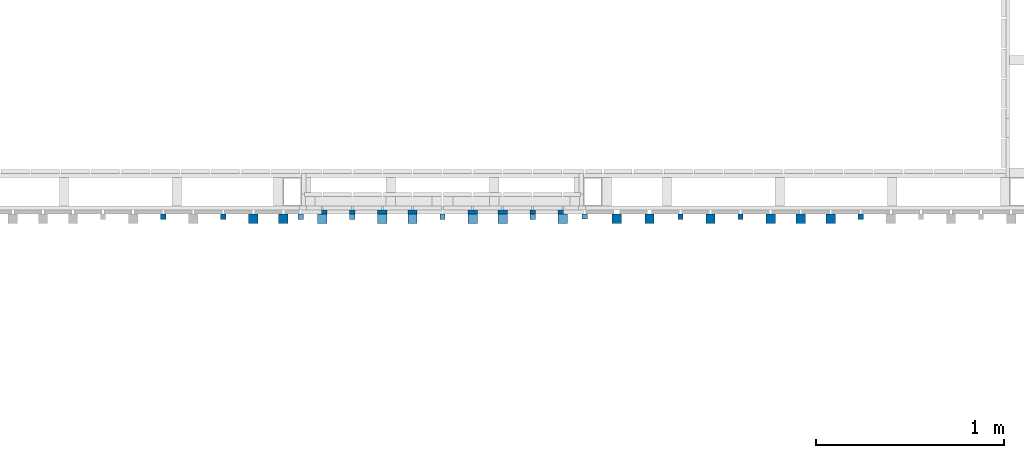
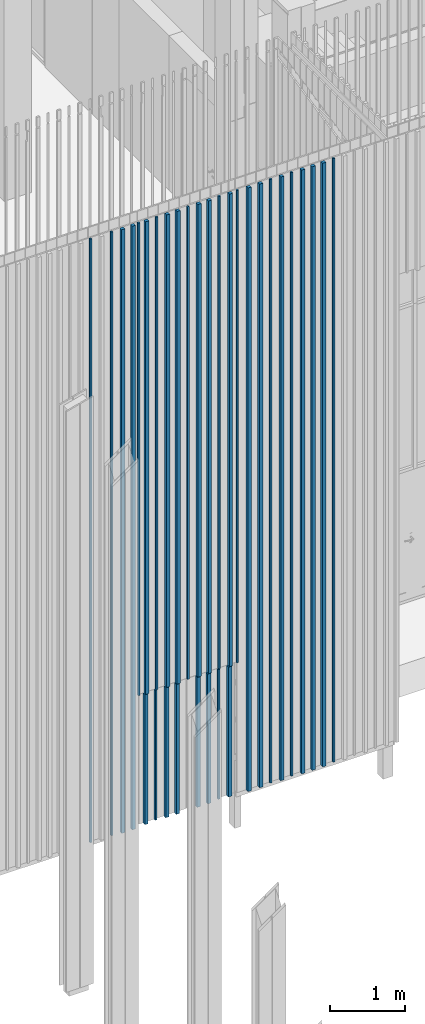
# One storey, part 8 of 390: 32 walls.
"""IFC2X3 building model written with IfcOpenShell, lengths in millimetres."""

from ifc_helpers import new_model, entity, si_unit, converted_unit, derived_unit, money_unit, direction, frame, origin_with_axes, origin_2d_with_axis, place, context, subcontext, project, spatial, rectangle, extrude, material, type_object, element, save


model = new_model("IFC2X3")

# Units and contexts
model_context = context("Model", 3, precision=1e-05, world=origin_with_axes(), true_north=direction((0.0, 1.0)))
body_context = subcontext(model_context, "Body", "Model", "MODEL_VIEW")
ifc_project = project(units=[si_unit("LENGTHUNIT", "METRE", prefix="MILLI"), si_unit("AREAUNIT", "SQUARE_METRE"), si_unit("VOLUMEUNIT", "CUBIC_METRE"), converted_unit("PLANEANGLEUNIT", "DEGREE", entity("IfcPlaneAngleMeasure", 0.0174532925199), si_unit("PLANEANGLEUNIT", "RADIAN"), dimensions=[0, 0, 0, 0, 0, 0, 0]), si_unit("SOLIDANGLEUNIT", "STERADIAN"), money_unit("EUR"), converted_unit("TIMEUNIT", "Year", entity("IfcTimeMeasure", 31556926.0), si_unit("TIMEUNIT", "SECOND"), dimensions=[0, 0, 1, 0, 0, 0, 0]), si_unit("MASSUNIT", "GRAM", prefix="KILO"), si_unit("THERMODYNAMICTEMPERATUREUNIT", "DEGREE_CELSIUS"), si_unit("LUMINOUSINTENSITYUNIT", "LUMEN"), si_unit("ENERGYUNIT", "JOULE", prefix="MEGA"), derived_unit("THERMALCONDUCTANCEUNIT", [(si_unit("POWERUNIT", "WATT"), 1), (si_unit("LENGTHUNIT", "METRE"), -1), (si_unit("THERMODYNAMICTEMPERATUREUNIT", "KELVIN"), -1)]), derived_unit("SPECIFICHEATCAPACITYUNIT", [(si_unit("ENERGYUNIT", "JOULE"), 1), (si_unit("MASSUNIT", "GRAM", prefix="KILO"), -1), (si_unit("THERMODYNAMICTEMPERATUREUNIT", "KELVIN"), -1)]), derived_unit("MASSDENSITYUNIT", [(si_unit("MASSUNIT", "GRAM", prefix="KILO"), 1), (si_unit("VOLUMEUNIT", "CUBIC_METRE"), -1)])], contexts=[model_context])

# Site, building, storey
site_placement = place(None, origin_with_axes())
site = spatial("IfcSite", under=ifc_project, at=site_placement, Name="Site", CompositionType="ELEMENT")
building_placement = place(site_placement, origin_with_axes())
building = spatial("IfcBuilding", under=site, at=building_placement, Name="Building", CompositionType="ELEMENT")
storey_placement = place(building_placement, origin_with_axes())
storey = spatial("IfcBuildingStorey", under=building, at=storey_placement, Name="1 korrus", CompositionType="ELEMENT", Elevation=0.0)

# Walls
ifc_material = material(Name="Site specified")
wall_type = type_object("IfcWallType", Name="Puitfassaadi ribistik", PredefinedType="NOTDEFINED")
for number, where, z_axis, x_axis, name in (
    (1, (126509.99996, 42455.0000666, 2220.00000001), (0.0, 0.0, 1.0), (-1.0, 0.0, 0.0), "Site specified"),
    (2, (125229.99996, 42455.0000666, 2220.00000001), (0.0, 0.0, 1.0), (-1.0, 0.0, 0.0), "Site specified"),
    (3, (126029.99996, 42455.0000666, 2220.00000001), (0.0, 0.0, 1.0), (-1.0, 0.0, 0.0), "Site specified"),
    (4, (126189.99996, 42455.0000666, 2220.00000001), (0.0, 0.0, 1.0), (-1.0, 0.0, 0.0), "Site specified"),
):
    element("IfcWall", number, at=place(storey_placement, frame(where, z_axis=z_axis, x_axis=x_axis)), inside=storey, type_object=wall_type, material=ifc_material, Name=name, context=body_context, shape_type="SweptSolid", body=[
        extrude(rectangle(XDim=50.0, YDim=50.0, at=origin_2d_with_axis()), origin_with_axes(), (0.0, 0.0, 1.0), 7644.99999999),
    ])
for number, where, z_axis, x_axis, name in (
    (5, (127136.999994, 42465.9999887, 100.000000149), (0.0, 0.0, 1.0), (-1.0, 0.0, 0.0), "Site specified"),
    (6, (128096.999994, 42465.9999962, 100.000000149), (0.0, 0.0, 1.0), (-1.0, 0.0, 0.0), "Site specified"),
):
    element("IfcWall", number, at=place(storey_placement, frame(where, z_axis=z_axis, x_axis=x_axis)), inside=storey, type_object=wall_type, material=ifc_material, Name=name, context=body_context, shape_type="SweptSolid", body=[
        extrude(rectangle(XDim=28.0, YDim=28.0, at=origin_2d_with_axis()), origin_with_axes(), (0.0, 0.0, 1.0), 9764.99999985),
    ])
for number, where, z_axis, x_axis, name in (
    (7, (125549.99996, 42455.0000666, 2220.00000001), (0.0, 0.0, 1.0), (-1.0, 0.0, 0.0), "Site specified"),
    (8, (125709.99996, 42455.0000666, 2220.00000001), (0.0, 0.0, 1.0), (-1.0, 0.0, 0.0), "Site specified"),
):
    element("IfcWall", number, at=place(storey_placement, frame(where, z_axis=z_axis, x_axis=x_axis)), inside=storey, type_object=wall_type, material=ifc_material, Name=name, context=body_context, shape_type="SweptSolid", body=[
        extrude(rectangle(XDim=50.0, YDim=50.0, at=origin_2d_with_axis()), origin_with_axes(), (0.0, 0.0, 1.0), 7644.99999999),
    ])
wall_1_placement = place(storey_placement, frame((127456.999994, 42465.9999962, 100.000000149), z_axis=(0.0, 0.0, 1.0), x_axis=(-1.0, 0.0, 0.0)))
element("IfcWall", 9, at=wall_1_placement, inside=storey, type_object=wall_type, material=ifc_material, Name="Site specified", context=body_context, shape_type="SweptSolid", body=[
    extrude(rectangle(XDim=28.0, YDim=28.0, at=origin_2d_with_axis()), origin_with_axes(), (0.0, 0.0, 1.0), 9764.99999985),
])
for number, where, z_axis, x_axis, name in (
    (10, (127936.999994, 42454.9999962, 100.000000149), (0.0, 0.0, 1.0), (-1.0, 0.0, 0.0), "Site specified"),
    (11, (125022.99996, 42455.0000667, 100.000000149), (0.0, 0.0, 1.0), (-1.0, 0.0, 0.0), "Site specified"),
    (12, (124862.99996, 42455.0000667, 100.000000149), (0.0, 0.0, 1.0), (-1.0, 0.0, 0.0), "Site specified"),
    (13, (127776.999994, 42454.9999962, 100.000000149), (0.0, 0.0, 1.0), (-1.0, 0.0, 0.0), "Site specified"),
    (14, (127616.999994, 42454.9999463, 100.000000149), (0.0, 0.0, 1.0), (-1.0, 0.0, 0.0), "Site specified"),
    (15, (127296.999994, 42454.9999388, 100.000000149), (0.0, 0.0, 1.0), (-1.0, 0.0, 0.0), "Site specified"),
    (16, (126796.976219, 42455.0002416, 100.000000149), (0.0, 0.0, 1.0), (-1.0, 0.0, 0.0), "Site specified"),
    (17, (126971.999994, 42454.9999887, 100.000000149), (0.0, 0.0, 1.0), (-1.0, 0.0, 0.0), "Site specified"),
):
    element("IfcWall", number, at=place(storey_placement, frame(where, z_axis=z_axis, x_axis=x_axis)), inside=storey, type_object=wall_type, material=ifc_material, Name=name, context=body_context, shape_type="SweptSolid", body=[
        extrude(rectangle(XDim=50.0, YDim=50.0, at=origin_2d_with_axis()), origin_with_axes(), (0.0, 0.0, 1.0), 9764.99999985),
    ])
for number, where, z_axis, x_axis, name in (
    (18, (125709.999959, 42476.0000975, 100.000000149), (0.0, 0.0, 1.0), (-1.0, 0.0, 0.0), "Site specified"),
    (19, (125549.999959, 42476.0000975, 100.000000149), (0.0, 0.0, 1.0), (-1.0, 0.0, 0.0), "Site specified"),
    (20, (125229.999959, 42476.0000975, 100.000000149), (0.0, 0.0, 1.0), (-1.0, 0.0, 0.0), "Site specified"),
):
    element("IfcWall", number, at=place(storey_placement, frame(where, z_axis=z_axis, x_axis=x_axis)), inside=storey, type_object=wall_type, material=ifc_material, Name=name, context=body_context, shape_type="SweptSolid", body=[
        extrude(rectangle(XDim=50.0, YDim=50.0, at=origin_2d_with_axis()), origin_with_axes(), (0.0, 0.0, 1.0), 2100.0),
    ])
wall_2_placement = place(storey_placement, frame((125389.999959, 42487.0000975, 100.000000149), z_axis=(0.0, 0.0, 1.0), x_axis=(-1.0, 0.0, 0.0)))
element("IfcWall", 21, at=wall_2_placement, inside=storey, type_object=wall_type, material=ifc_material, Name="Site specified", context=body_context, shape_type="SweptSolid", body=[
    extrude(rectangle(XDim=28.0, YDim=28.0, at=origin_2d_with_axis()), origin_with_axes(), (0.0, 0.0, 1.0), 2100.0),
])
wall_3_placement = place(storey_placement, frame((126189.999961, 42476.0000744, 100.000000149), z_axis=(0.0, 0.0, 1.0), x_axis=(-1.0, 0.0, 0.0)))
element("IfcWall", 22, at=wall_3_placement, inside=storey, type_object=wall_type, material=ifc_material, Name="Site specified", context=body_context, shape_type="SweptSolid", body=[
    extrude(rectangle(XDim=50.0, YDim=50.0, at=origin_2d_with_axis()), frame((0.0, 0.0, 0.0), z_axis=(0.0, 0.0, -1.0), x_axis=(-1.0, 0.0, 0.0)), (0.0, 0.0, -1.0), 2100.0),
])
for number, where, z_axis, x_axis, name in (
    (23, (125389.99996, 42466.0000666, 2220.00000001), (0.0, 0.0, 1.0), (-1.0, 0.0, 0.0), "Site specified"),
    (24, (126349.99996, 42466.0000666, 2220.00000001), (0.0, 0.0, 1.0), (-1.0, 0.0, 0.0), "Site specified"),
    (25, (125114.99996, 42466.0000741, 2220.00000001), (0.0, 0.0, 1.0), (-1.0, 0.0, 0.0), "Site specified"),
    (26, (125869.99996, 42466.0000666, 2220.00000001), (0.0, 0.0, 1.0), (-1.0, 0.0, 0.0), "Site specified"),
    (27, (126626.99996, 42467.0001117, 2220.00000001), (0.0, 0.0, 1.0), (-1.0, 0.0, 0.0), "Site specified"),
):
    element("IfcWall", number, at=place(storey_placement, frame(where, z_axis=z_axis, x_axis=x_axis)), inside=storey, type_object=wall_type, material=ifc_material, Name=name, context=body_context, shape_type="SweptSolid", body=[
        extrude(rectangle(XDim=28.0, YDim=28.0, at=origin_2d_with_axis()), origin_with_axes(), (0.0, 0.0, 1.0), 7644.99999999),
    ])
for number, where, z_axis, x_axis, name in (
    (28, (124382.99996, 42466.0000667, 100.000000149), (0.0, 0.0, 1.0), (-1.0, 0.0, 0.0), "Site specified"),
    (29, (124702.99996, 42466.0000667, 100.000000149), (0.0, 0.0, 1.0), (-1.0, 0.0, 0.0), "Site specified"),
):
    element("IfcWall", number, at=place(storey_placement, frame(where, z_axis=z_axis, x_axis=x_axis)), inside=storey, type_object=wall_type, material=ifc_material, Name=name, context=body_context, shape_type="SweptSolid", body=[
        extrude(rectangle(XDim=28.0, YDim=28.0, at=origin_2d_with_axis()), origin_with_axes(), (0.0, 0.0, 1.0), 9764.99999985),
    ])
wall_4_placement = place(storey_placement, frame((126029.999961, 42476.0000744, 100.000000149), z_axis=(0.0, 0.0, 1.0), x_axis=(-1.0, 0.0, 0.0)))
element("IfcWall", 30, at=wall_4_placement, inside=storey, type_object=wall_type, material=ifc_material, Name="Site specified", context=body_context, shape_type="SweptSolid", body=[
    extrude(rectangle(XDim=50.0, YDim=50.0, at=origin_2d_with_axis()), frame((0.0, 0.0, 0.0), z_axis=(0.0, 0.0, -1.0), x_axis=(-1.0, 0.0, 0.0)), (0.0, 0.0, -1.0), 2100.0),
])
wall_5_placement = place(storey_placement, frame((126349.999961, 42487.0000744, 100.000000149), z_axis=(0.0, 0.0, 1.0), x_axis=(-1.0, 0.0, 0.0)))
element("IfcWall", 31, at=wall_5_placement, inside=storey, type_object=wall_type, material=ifc_material, Name="Site specified", context=body_context, shape_type="SweptSolid", body=[
    extrude(rectangle(XDim=28.0, YDim=28.0, at=origin_2d_with_axis()), frame((0.0, 0.0, 0.0), z_axis=(0.0, 0.0, -1.0), x_axis=(-1.0, 0.0, 0.0)), (0.0, 0.0, -1.0), 2100.0),
])
wall_6_placement = place(storey_placement, frame((126509.999961, 42476.0000744, 100.000000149), z_axis=(0.0, 0.0, 1.0), x_axis=(-1.0, 0.0, 0.0)))
element("IfcWall", 32, at=wall_6_placement, inside=storey, type_object=wall_type, material=ifc_material, Name="Site specified", context=body_context, shape_type="SweptSolid", body=[
    extrude(rectangle(XDim=50.0, YDim=50.0, at=origin_2d_with_axis()), frame((0.0, 0.0, 0.0), z_axis=(0.0, 0.0, -1.0), x_axis=(-1.0, 0.0, 0.0)), (0.0, 0.0, -1.0), 2100.0),
])

save(model, "model.ifc")
